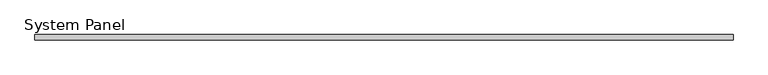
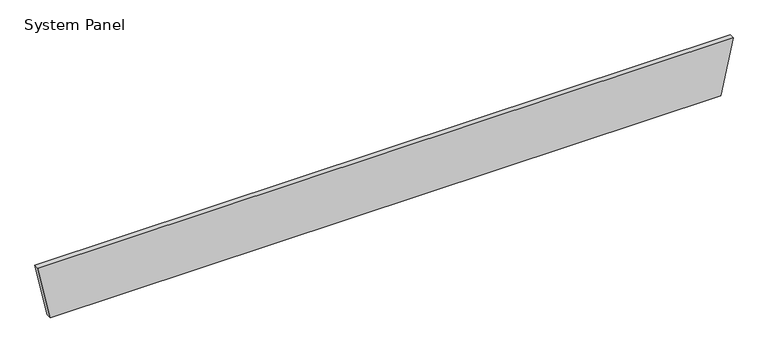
"""IFC4 building model written with IfcOpenShell, lengths in millimetres: plate geometry, System Panel : MetecnoPanel_100mm_Plain_Surfmist."""

from ifc_helpers import new_model, si_unit, frame, origin, place, context, project, spatial, polyline, outline, extrude, source, transform, mapped, element, save


def system_panel_da703823(model_context):
    return source(origin(), model_context, "Body", "SweptSolid", [
        extrude(outline(polyline([(0.0, -6478.2647134), (0.0, 6478.2647134), (1100.0, 6717.3970701), (1100.0, -6717.3970701), (0.0, -6478.2647134)])), frame((0.0, -100.0, 0.0), z_axis=(0.0, 1.0, 0.0), x_axis=(0.0, 0.0, 1.0)), (0.0, 0.0, 1.0), 100.0),
    ])


if __name__ == "__main__":
    model = new_model("IFC4")
    model_context = context("Model", 3, world=origin())
    ifc_project = project(units=[si_unit("LENGTHUNIT", "METRE", prefix="MILLI")], contexts=[model_context])
    site = spatial("IfcSite", under=ifc_project)
    building = spatial("IfcBuilding", under=site)
    placement = place(None, origin())
    system_panel_shape = system_panel_da703823(model_context)
    element("IfcPlate", 1, ObjectType="System Panel : MetecnoPanel_100mm_Plain_Surfmist", at=placement, inside=building, context=model_context, shape_type="MappedRepresentation", body=[
        mapped(system_panel_shape, transform((0.0, 0.0, 0.0), x_axis=(1.0, 0.0, 0.0), y_axis=(0.0, 1.0, 0.0), z_axis=(0.0, 0.0, 1.0))),
    ])
    save(model, "model.ifc")
